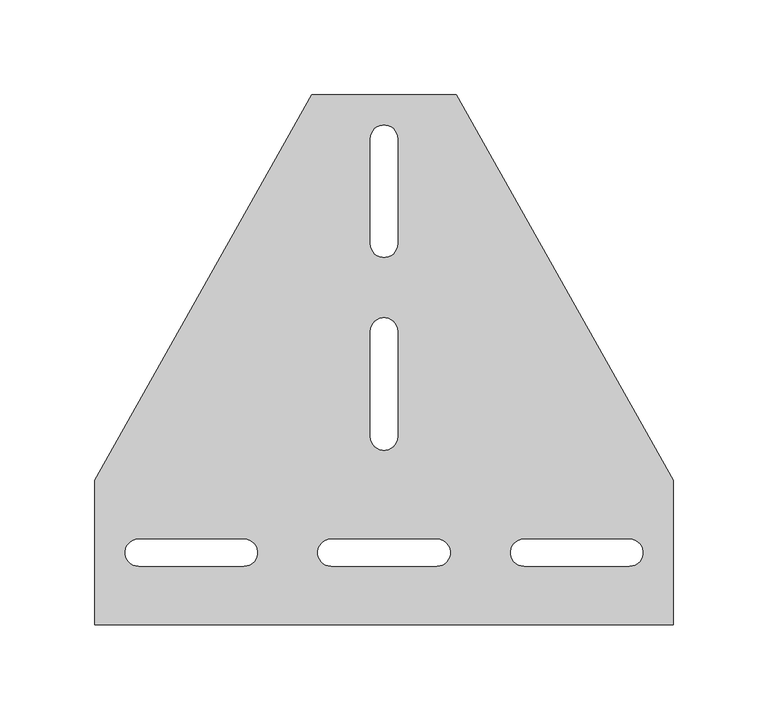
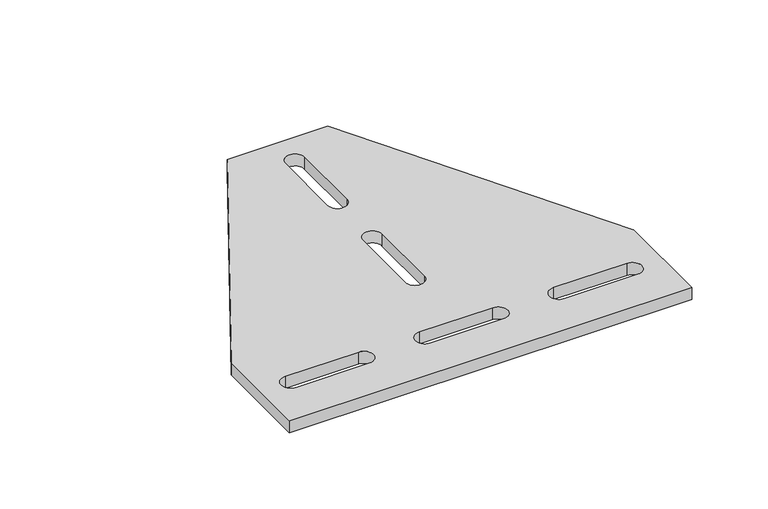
"""IFC4 building model written with IfcOpenShell, lengths in millimetres: proxy geometry, 14NSF-P43 : 14NSF-P43."""

import ifcopenshell
import ifcopenshell.guid

model = None  # the IFC model being written
_history = None  # IfcOwnerHistory: only IFC2X3 demands one
_inside = {}  # id of a spatial element -> (the spatial element, [elements in it])
_under = {}  # id of a project, library or spatial element -> (it, [spatial elements below it])
_declared = {}  # id of a project -> (the project, [libraries it declares])
_typed = {}  # id of a type object -> (the type object, [elements of that type])
_made_of = {}  # id of a material, layer set ... -> (it, [elements and type objects made of it])


def new_model(schema):
    """Start an empty IFC model of exactly this schema.

    Asked for "IFC4X3", IfcOpenShell would pick the latest addendum, in which some entities
    have other attributes; the version numbers below select the first issue.
    IFC2X3 requires an IfcOwnerHistory on every rooted entity: one is made here for all.
    """
    global model, _history
    if schema == "IFC4X3":
        model = ifcopenshell.file(schema_version=(4, 3, 0, 0))
    else:
        model = ifcopenshell.file(schema=schema)
    _inside.clear()
    _under.clear()
    _declared.clear()
    _typed.clear()
    _made_of.clear()
    _history = None
    if model.schema == "IFC2X3":
        org = make("IfcOrganization", Name="unknown")
        user = make(
            "IfcPersonAndOrganization",
            ThePerson=make("IfcPerson", FamilyName="unknown"),
            TheOrganization=org,
        )
        app = make(
            "IfcApplication",
            ApplicationDeveloper=org,
            Version="unknown",
            ApplicationFullName="unknown",
            ApplicationIdentifier="unknown",
        )
        _history = make(
            "IfcOwnerHistory",
            OwningUser=user,
            OwningApplication=app,
            ChangeAction="ADDED",
            CreationDate=0,
        )
    return model


def make(cls, **values):
    """One entity of the class cls with the attributes given. An attribute that is None is left unset."""
    return model.create_entity(
        cls, **{name: value for name, value in values.items() if value is not None}
    )


def rooted(cls, **values):
    """An entity with a GlobalId (a new one), such as an element, a storey or a relation."""
    return make(cls, GlobalId=ifcopenshell.guid.new(), OwnerHistory=_history, **values)


def si_unit(unit_type, name, prefix=None):
    """IfcSIUnit, for example si_unit("LENGTHUNIT", "METRE", prefix="MILLI")."""
    return make("IfcSIUnit", UnitType=unit_type, Prefix=prefix, Name=name)


def assignment(units):
    """IfcUnitAssignment: the units of a project."""
    return None if units is None else make("IfcUnitAssignment", Units=units)


def point(xyz):
    """IfcCartesianPoint."""
    return None if xyz is None else make("IfcCartesianPoint", Coordinates=xyz)


def direction(xyz):
    """IfcDirection."""
    return None if xyz is None else make("IfcDirection", DirectionRatios=xyz)


def frame(location, z_axis=None, x_axis=None):
    """IfcAxis2Placement3D, a coordinate frame: its origin and axes. An axis left out is left unset."""
    return make(
        "IfcAxis2Placement3D",
        Location=point(location),
        Axis=direction(z_axis),
        RefDirection=direction(x_axis),
    )


def frame_2d(location, x_axis=None):
    """IfcAxis2Placement2D, a coordinate frame in the plane: its origin and x axis."""
    return make(
        "IfcAxis2Placement2D", Location=point(location), RefDirection=direction(x_axis)
    )


def origin():
    """The frame at (0, 0, 0) with its axes left unset."""
    return frame((0.0, 0.0, 0.0))


def origin_with_axes():
    """The frame at (0, 0, 0) with the z axis (0, 0, 1) and the x axis (1, 0, 0) written out."""
    return frame((0.0, 0.0, 0.0), z_axis=(0.0, 0.0, 1.0), x_axis=(1.0, 0.0, 0.0))


def place(relative_to, where):
    """IfcLocalPlacement: puts the frame where relative to a parent placement (None: the world)."""
    return make(
        "IfcLocalPlacement", PlacementRelTo=relative_to, RelativePlacement=where
    )


def context(
    kind, dimensions, precision=None, world=None, true_north=None, identifier=None
):
    """IfcGeometricRepresentationContext, for example the 3D "Model" context."""
    return make(
        "IfcGeometricRepresentationContext",
        ContextIdentifier=identifier,
        ContextType=kind,
        CoordinateSpaceDimension=dimensions,
        Precision=precision,
        WorldCoordinateSystem=world,
        TrueNorth=true_north,
    )


def project(units=None, contexts=None):
    """IfcProject with its units and contexts."""
    return rooted(
        "IfcProject",
        Name="project",
        RepresentationContexts=contexts,
        UnitsInContext=assignment(units),
    )


def spatial(cls, under=None, at=None, **own):
    """A site, building, storey or space (cls), placed at a placement, below another one or the project."""
    s = rooted(cls, ObjectPlacement=at, **own)
    if under is not None:
        _under.setdefault(under.id(), (under, []))[1].append(s)
    return s


def polyline(points):
    """IfcPolyline through the points."""
    return make("IfcPolyline", Points=[point(p) for p in points])


def circle_curve(where, radius):
    """IfcCircle in the frame where."""
    return make("IfcCircle", Position=where, Radius=radius)


def trimmed(basis, trim1, trim2, sense, master):
    """IfcTrimmedCurve: the piece of a basis curve between two trims."""
    return make(
        "IfcTrimmedCurve",
        BasisCurve=basis,
        Trim1=trim1,
        Trim2=trim2,
        SenseAgreement=sense,
        MasterRepresentation=master,
    )


def segment(curve, same_sense, transition):
    """IfcCompositeCurveSegment."""
    return make(
        "IfcCompositeCurveSegment",
        Transition=transition,
        SameSense=same_sense,
        ParentCurve=curve,
    )


def composite_curve(segments, self_intersect=None):
    """IfcCompositeCurve: segments joined end to end."""
    return make("IfcCompositeCurve", Segments=segments, SelfIntersect=self_intersect)


def outline(outer, holes=None, kind="AREA"):
    """IfcArbitraryClosedProfileDef: a profile drawn as a closed curve; with holes, ...WithVoids."""
    if holes is None:
        return make("IfcArbitraryClosedProfileDef", ProfileType=kind, OuterCurve=outer)
    return make(
        "IfcArbitraryProfileDefWithVoids",
        ProfileType=kind,
        OuterCurve=outer,
        InnerCurves=holes,
    )


def extrude(swept, where, along, depth):
    """IfcExtrudedAreaSolid: the profile swept, set in the frame where, extruded along a direction by depth."""
    return make(
        "IfcExtrudedAreaSolid",
        SweptArea=swept,
        Position=where,
        ExtrudedDirection=direction(along),
        Depth=depth,
    )


def shape(context_of_items, identifier, shape_type, items):
    """IfcShapeRepresentation: the items that make up one representation, for example the "Body"."""
    return make(
        "IfcShapeRepresentation",
        ContextOfItems=context_of_items,
        RepresentationIdentifier=identifier,
        RepresentationType=shape_type,
        Items=items,
    )


def source(mapping_origin, context_of_items, identifier, shape_type, items):
    """IfcRepresentationMap: a shape defined once, which mapped items show again and again."""
    return make(
        "IfcRepresentationMap",
        MappingOrigin=mapping_origin,
        MappedRepresentation=shape(context_of_items, identifier, shape_type, items),
    )


def transform(
    local_origin,
    x_axis=None,
    y_axis=None,
    z_axis=None,
    scale=None,
    scale2=None,
    scale3=None,
    uniform=True,
):
    """IfcCartesianTransformationOperator3D, or its non-uniform kind. x_axis, y_axis, z_axis: its Axis1, 2, 3."""
    if uniform:
        return make(
            "IfcCartesianTransformationOperator3D",
            Axis1=direction(x_axis),
            Axis2=direction(y_axis),
            LocalOrigin=point(local_origin),
            Scale=scale,
            Axis3=direction(z_axis),
        )
    return make(
        "IfcCartesianTransformationOperator3DnonUniform",
        Axis1=direction(x_axis),
        Axis2=direction(y_axis),
        LocalOrigin=point(local_origin),
        Scale=scale,
        Axis3=direction(z_axis),
        Scale2=scale2,
        Scale3=scale3,
    )


def mapped(mapping_source, mapping_target):
    """IfcMappedItem: shows the shape of a source again, moved by a transform."""
    return make(
        "IfcMappedItem", MappingSource=mapping_source, MappingTarget=mapping_target
    )


def made_of(thing, what):
    """Note that an element or type object is made of a material, layer set ...; save() writes the relation."""
    if what is not None:
        _made_of.setdefault(what.id(), (what, []))[1].append(thing)
    return thing


def element(
    cls,
    number,
    at=None,
    inside=None,
    cuts=None,
    type_object=None,
    material=None,
    context=None,
    identifier="Body",
    shape_type=None,
    held_by="IfcProductDefinitionShape",
    body=None,
    shapes=None,
    **own,
):
    """One element of the class cls, such as IfcWall. Its Tag is "e" and its number.

    at: its placement. inside: the storey or other place that contains it. cuts: it is an
    opening in that element (IfcRelVoidsElement). A single representation is given by context,
    identifier, shape_type and body (its items); several are given by shapes. held_by: the class
    of the entity that holds the representations. save() writes the other relations.
    """
    e = rooted(cls, Tag="e%d" % number, ObjectPlacement=at, **own)
    if body is not None:
        shapes = [shape(context, identifier, shape_type, body)]
    if shapes is not None:
        e.Representation = make(held_by, Representations=shapes)
    if inside is not None:
        _inside.setdefault(inside.id(), (inside, []))[1].append(e)
    if cuts is not None:
        rooted(
            "IfcRelVoidsElement", RelatingBuildingElement=cuts, RelatedOpeningElement=e
        )
    if type_object is not None:
        _typed.setdefault(type_object.id(), (type_object, []))[1].append(e)
    return made_of(e, material)


def aggregate(whole, parts):
    """IfcRelAggregates: a whole, such as a stair, and the parts it consists of."""
    return rooted("IfcRelAggregates", RelatingObject=whole, RelatedObjects=parts)


def save(model, path):
    """Write the relations noted so far, then the file.

    IfcRelAggregates (storeys below a building ...), IfcRelContainedInSpatialStructure (elements
    in a storey), IfcRelDefinesByType, IfcRelAssociatesMaterial and IfcRelDeclares: one each for
    every whole, place, type object, material and project.
    """
    for whole, parts in _under.values():
        aggregate(whole, parts)
    for where, things in _inside.values():
        rooted(
            "IfcRelContainedInSpatialStructure",
            RelatedElements=things,
            RelatingStructure=where,
        )
    for kind, things in _typed.values():
        rooted("IfcRelDefinesByType", RelatedObjects=things, RelatingType=kind)
    for what, things in _made_of.values():
        rooted("IfcRelAssociatesMaterial", RelatedObjects=things, RelatingMaterial=what)
    for by, libraries in _declared.values():
        rooted("IfcRelDeclares", RelatingContext=by, RelatedDefinitions=libraries)
    model.write(path)


def generic_models_60e1e1ff(model_context):
    return source(origin(), model_context, "Body", "SweptSolid", [
        extrude(outline(polyline([(-152.4, 0.0), (-152.4, 76.2), (-38.1, 279.4), (38.1, 279.4), (152.4, 76.2), (152.4, 0.0), (-152.4, 0.0)]), holes=[composite_curve([segment(trimmed(circle_curve(frame_2d((0.0, 200.81875)), 7.14375), [point((-7.14375, 200.81875))], [point((7.14375, 200.81875))], True, "CARTESIAN"), True, "CONTINUOUS"), segment(polyline([(7.14375, 200.81875), (7.14375, 256.38125)]), True, "CONTINUOUS"), segment(trimmed(circle_curve(frame_2d((0.0, 256.38125)), 7.14375), [point((7.14375, 256.38125))], [point((-7.14375, 256.38125))], True, "CARTESIAN"), True, "CONTINUOUS"), segment(polyline([(-7.14375, 256.38125), (-7.14375, 200.81875)]), True, "CONTINUOUS")], self_intersect=False), composite_curve([segment(trimmed(circle_curve(frame_2d((0.0, 99.21875)), 7.14375), [point((-7.14375, 99.21875))], [point((7.14375, 99.21875))], True, "CARTESIAN"), True, "CONTINUOUS"), segment(polyline([(7.14375, 99.21875), (7.14375, 154.78125)]), True, "CONTINUOUS"), segment(trimmed(circle_curve(frame_2d((0.0, 154.78125)), 7.14375), [point((7.14375, 154.78125))], [point((-7.14375, 154.78125))], True, "CARTESIAN"), True, "CONTINUOUS"), segment(polyline([(-7.14375, 154.78125), (-7.14375, 99.21875)]), True, "CONTINUOUS")], self_intersect=False), composite_curve([segment(polyline([(-73.81875, 45.24375), (-129.3463932, 45.24375)]), True, "CONTINUOUS"), segment(trimmed(circle_curve(frame_2d((-129.3463932, 38.1)), 7.14375), [point((-129.3463932, 45.24375))], [point((-129.3463932, 30.95625))], True, "CARTESIAN"), True, "CONTINUOUS"), segment(polyline([(-129.3463932, 30.95625), (-73.81875, 30.95625)]), True, "CONTINUOUS"), segment(trimmed(circle_curve(frame_2d((-73.81875, 38.1)), 7.14375), [point((-73.81875, 30.95625))], [point((-73.81875, 45.24375))], True, "CARTESIAN"), True, "CONTINUOUS")], self_intersect=False), composite_curve([segment(polyline([(73.81875, 30.95625), (129.38125, 30.95625)]), True, "CONTINUOUS"), segment(trimmed(circle_curve(frame_2d((129.38125, 38.1)), 7.14375), [point((129.38125, 30.95625))], [point((129.38125, 45.24375))], True, "CARTESIAN"), True, "CONTINUOUS"), segment(polyline([(129.38125, 45.24375), (73.81875, 45.24375)]), True, "CONTINUOUS"), segment(trimmed(circle_curve(frame_2d((73.81875, 38.1)), 7.14375), [point((73.81875, 45.24375))], [point((73.81875, 30.95625))], True, "CARTESIAN"), True, "CONTINUOUS")], self_intersect=False), composite_curve([segment(polyline([(27.78125, 45.24375), (-27.78125, 45.24375)]), True, "CONTINUOUS"), segment(trimmed(circle_curve(frame_2d((-27.78125, 38.1)), 7.14375), [point((-27.78125, 45.24375))], [point((-27.78125, 30.95625))], True, "CARTESIAN"), True, "CONTINUOUS"), segment(polyline([(-27.78125, 30.95625), (27.78125, 30.95625)]), True, "CONTINUOUS"), segment(trimmed(circle_curve(frame_2d((27.78125, 38.1)), 7.14375), [point((27.78125, 30.95625))], [point((27.78125, 45.24375))], True, "CARTESIAN"), True, "CONTINUOUS")], self_intersect=False)]), origin_with_axes(), (0.0, 0.0, 1.0), 9.525),
    ])


if __name__ == "__main__":
    model = new_model("IFC4")
    model_context = context("Model", 3, world=origin())
    ifc_project = project(units=[si_unit("LENGTHUNIT", "METRE", prefix="MILLI")], contexts=[model_context])
    site = spatial("IfcSite", under=ifc_project)
    building = spatial("IfcBuilding", under=site)
    placement = place(None, origin())
    generic_models_shape = generic_models_60e1e1ff(model_context)
    element("IfcBuildingElementProxy", 1, Name="14NSF-P43 : 14NSF-P43", ObjectType="14NSF-P43 : 14NSF-P43", at=placement, inside=building, context=model_context, shape_type="MappedRepresentation", body=[
        mapped(generic_models_shape, transform((0.0, 0.0, 0.0), x_axis=(1.0, 0.0, 0.0), y_axis=(0.0, 1.0, 0.0), z_axis=(0.0, 0.0, 1.0))),
    ])
    save(model, "model.ifc")
